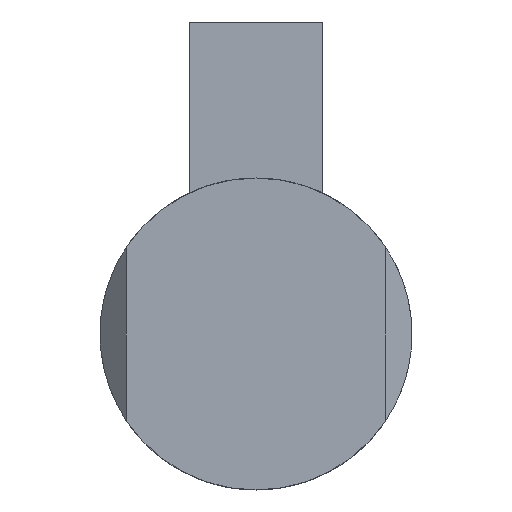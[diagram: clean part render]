
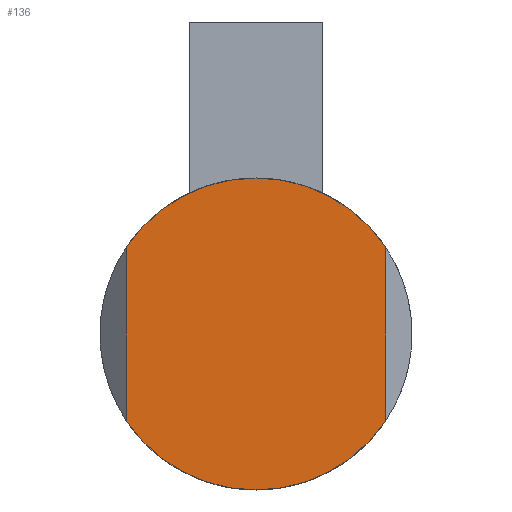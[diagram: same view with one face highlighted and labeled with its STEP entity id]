
A CAD part, front view. The second image highlights one B-rep face of the part: STEP entity #136.
In plain terms, the highlighted planar face has unit normal (0, -1, 0).
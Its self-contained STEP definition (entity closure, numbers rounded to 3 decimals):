
#13 = EDGE_CURVE ( 'NONE', #400, #336, #199, .T. ) ;
#26 = CIRCLE ( 'NONE', #624, 9. ) ;
#69 = CARTESIAN_POINT ( 'NONE',  ( 7.5, -7.85, 0. ) ) ;
#76 = AXIS2_PLACEMENT_3D ( 'NONE', #612, #241, #238 ) ;
#85 = ORIENTED_EDGE ( 'NONE', *, *, #356, .T. ) ;
#90 = VECTOR ( 'NONE', #445, 1000. ) ;
#93 = LINE ( 'NONE', #69, #90 ) ;
#100 = LINE ( 'NONE', #702, #103 ) ;
#103 = VECTOR ( 'NONE', #648, 1000. ) ;
#128 = CIRCLE ( 'NONE', #512, 9. ) ;
#136 = ADVANCED_FACE ( 'NONE', ( #152 ), #309, .F. ) ;
#138 = DIRECTION ( 'NONE',  ( 0., 1., 0. ) ) ;
#152 = FACE_OUTER_BOUND ( 'NONE', #209, .T. ) ;
#179 = CARTESIAN_POINT ( 'NONE',  ( 7.5, -7.85, 4.975 ) ) ;
#199 = CIRCLE ( 'NONE', #493, 9. ) ;
#209 = EDGE_LOOP ( 'NONE', ( #668, #670, #328, #422, #85, #657 ) ) ;
#238 = DIRECTION ( 'NONE',  ( 0., 0., 1. ) ) ;
#241 = DIRECTION ( 'NONE',  ( 0., 1., 0. ) ) ;
#246 = VERTEX_POINT ( 'NONE', #348 ) ;
#250 = CARTESIAN_POINT ( 'NONE',  ( 0., -7.85, 9. ) ) ;
#254 = DIRECTION ( 'NONE',  ( 0., 0., 1. ) ) ;
#270 = EDGE_CURVE ( 'NONE', #246, #285, #128, .T. ) ;
#285 = VERTEX_POINT ( 'NONE', #318 ) ;
#288 = EDGE_CURVE ( 'NONE', #345, #285, #100, .T. ) ;
#291 = CARTESIAN_POINT ( 'NONE',  ( 7.5, -7.85, -4.975 ) ) ;
#309 = PLANE ( 'NONE',  #76 ) ;
#318 = CARTESIAN_POINT ( 'NONE',  ( -7.5, -7.85, -4.975 ) ) ;
#328 = ORIENTED_EDGE ( 'NONE', *, *, #270, .F. ) ;
#336 = VERTEX_POINT ( 'NONE', #179 ) ;
#345 = VERTEX_POINT ( 'NONE', #555 ) ;
#348 = CARTESIAN_POINT ( 'NONE',  ( 0., -7.85, -9. ) ) ;
#354 = DIRECTION ( 'NONE',  ( 0., 1., 0. ) ) ;
#356 = EDGE_CURVE ( 'NONE', #619, #336, #93, .T. ) ;
#400 = VERTEX_POINT ( 'NONE', #250 ) ;
#422 = ORIENTED_EDGE ( 'NONE', *, *, #622, .F. ) ;
#445 = DIRECTION ( 'NONE',  ( 0., 0., 1. ) ) ;
#452 = DIRECTION ( 'NONE',  ( 0., 0., 1. ) ) ;
#493 = AXIS2_PLACEMENT_3D ( 'NONE', #710, #715, #254 ) ;
#498 = CARTESIAN_POINT ( 'NONE',  ( 0., -7.85, 0. ) ) ;
#512 = AXIS2_PLACEMENT_3D ( 'NONE', #542, #539, #452 ) ;
#539 = DIRECTION ( 'NONE',  ( 0., 1., 0. ) ) ;
#541 = DIRECTION ( 'NONE',  ( 0., 0., 1. ) ) ;
#542 = CARTESIAN_POINT ( 'NONE',  ( 0., -7.85, 0. ) ) ;
#555 = CARTESIAN_POINT ( 'NONE',  ( -7.5, -7.85, 4.975 ) ) ;
#556 = AXIS2_PLACEMENT_3D ( 'NONE', #498, #138, #541 ) ;
#604 = EDGE_CURVE ( 'NONE', #345, #400, #26, .T. ) ;
#612 = CARTESIAN_POINT ( 'NONE',  ( 0., -7.85, 0. ) ) ;
#619 = VERTEX_POINT ( 'NONE', #291 ) ;
#622 = EDGE_CURVE ( 'NONE', #619, #246, #718, .T. ) ;
#624 = AXIS2_PLACEMENT_3D ( 'NONE', #662, #354, #723 ) ;
#648 = DIRECTION ( 'NONE',  ( 0., 0., -1. ) ) ;
#657 = ORIENTED_EDGE ( 'NONE', *, *, #13, .F. ) ;
#662 = CARTESIAN_POINT ( 'NONE',  ( 0., -7.85, 0. ) ) ;
#668 = ORIENTED_EDGE ( 'NONE', *, *, #604, .F. ) ;
#670 = ORIENTED_EDGE ( 'NONE', *, *, #288, .T. ) ;
#702 = CARTESIAN_POINT ( 'NONE',  ( -7.5, -7.85, 0. ) ) ;
#710 = CARTESIAN_POINT ( 'NONE',  ( 0., -7.85, 0. ) ) ;
#715 = DIRECTION ( 'NONE',  ( 0., 1., 0. ) ) ;
#718 = CIRCLE ( 'NONE', #556, 9. ) ;
#723 = DIRECTION ( 'NONE',  ( 0., 0., 1. ) ) ;
